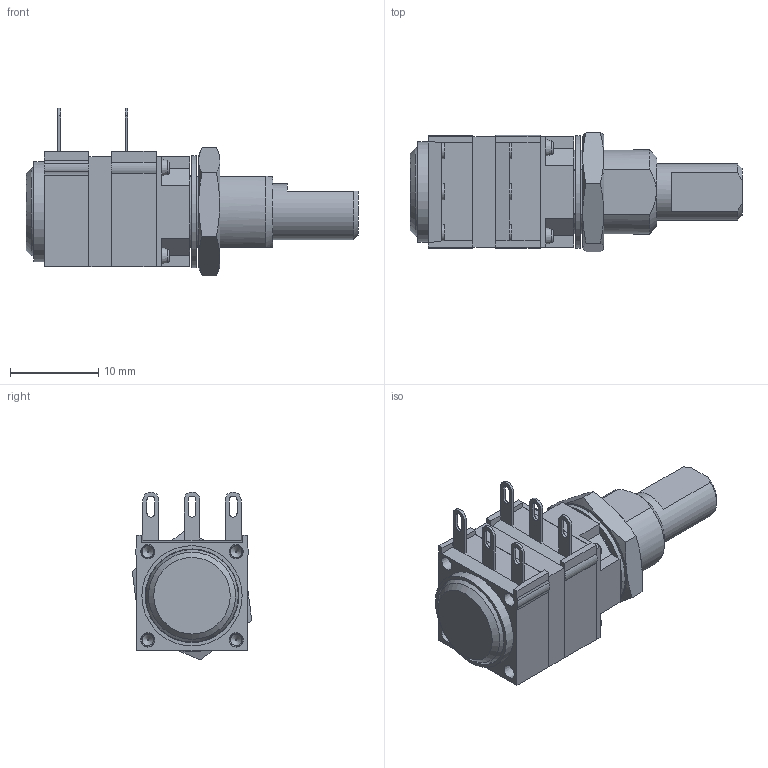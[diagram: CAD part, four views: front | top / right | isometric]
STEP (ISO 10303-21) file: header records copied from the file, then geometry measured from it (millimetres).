
FILE_DESCRIPTION(/* description */ ('Unknown'),/* implementation_level */ '2;1');
FILE_NAME(/* name */ 'P11S3F0GHFY03103KA',/* time_stamp */ '2023-08-22T16:51:16+02:00',/* author */ ('Unknown'),/* organization */ ('Unknown'),/* preprocessor_version */ 'ST-DEVELOPER v18.102',/* originating_system */ 'Solid Edge',/* authorisation */ 'Unknown');
FILE_SCHEMA (('AUTOMOTIVE_DESIGN {1 0 10303 214 3 1 1}'));
Length unit declared in the file: millimetre
Products named in the file (13): P11S3F0GHFY03103KA; 3664192; 3653060; M1-Y03-103_oa_0; 3650993; bande à chas; 3650540; DEMI SPACER_oa_1; 80918396; M3-Y03-103_oa_2; HD101-03; 0683952
Assembly tree (13 placements, depth 3):
  P11S3F0GHFY03103KA
    3664192
    3653060
    M1-Y03-103_oa_0
      3650993
      bande à chas
    3650540
    DEMI SPACER_oa_1
      80918396
    M3-Y03-103_oa_2
      3650993
      bande à chas
    HD101-03
    0683952
Bounding box: 37.6 x 13.55 x 19.02 mm (x, y, z)
Volume: 2625.8 mm3; surface area: 5037.7 mm2
Topology: 14 solids, 14 shells, 820 faces, 2167 edges, 1426 vertices
Faces by surface type: plane 436, cylinder 209, cone 86, bspline 78, torus 11
Full cylindrical faces by diameter (mm): 0.996 x8, 1.3 x20, 1.5 x18, 1.55 x4, 3.4 x1, 3.97 x1, 4 x1, 4.1 x3, 5.25 x3, 5.9 x1, 6.35 x2, 6.4 x1, 7.42 x1, 7.44 x3, 8.4 x1, 8.666 x1, 9.65 x1, 10.6 x3, 11.35 x3, 12.7 x1
Entity records: 23747 total; most frequent: CARTESIAN_POINT 5610, ORIENTED_EDGE 3502, DIRECTION 3400, EDGE_CURVE 1751, VERTEX_POINT 1225, AXIS2_PLACEMENT_3D 1207, EDGE_LOOP 1002, FACE_BOUND 1002
